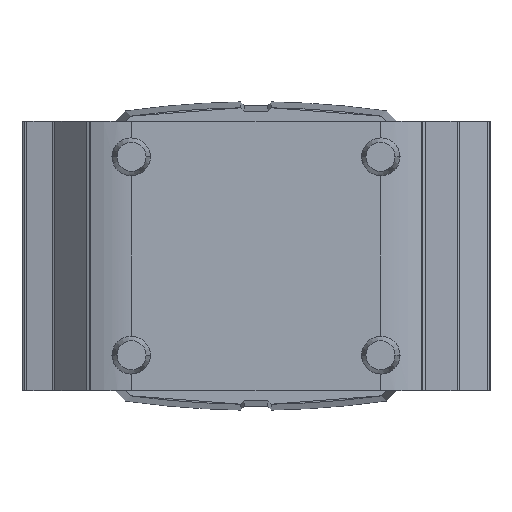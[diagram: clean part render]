
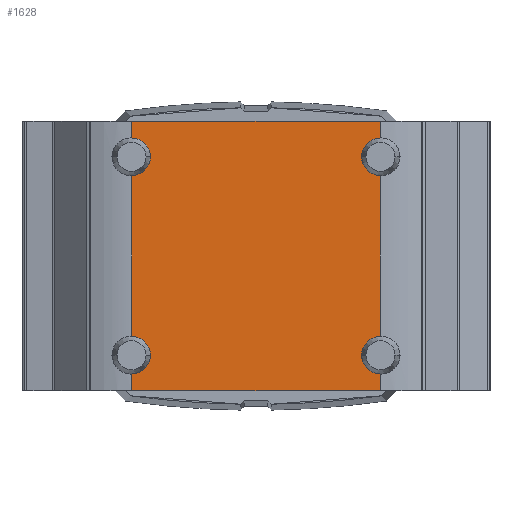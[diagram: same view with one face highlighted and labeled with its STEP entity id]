
A CAD part, front view. The second image highlights one B-rep face of the part: STEP entity #1628.
In plain terms, the highlighted planar face has unit normal (0, -1, 0).
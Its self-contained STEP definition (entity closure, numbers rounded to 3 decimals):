
#65=DIRECTION('',(1.,0.,0.));
#66=VECTOR('',#65,175.623);
#67=CARTESIAN_POINT('',(-87.812,-48.5,-95.));
#68=LINE('',#67,#66);
#335=CARTESIAN_POINT('',(-87.811,-48.5,70.));
#336=DIRECTION('',(0.,-1.,0.));
#337=DIRECTION('',(1.,0.,0.));
#338=AXIS2_PLACEMENT_3D('',#335,#336,#337);
#340=DIRECTION('',(0.,0.,-1.));
#341=VECTOR('',#340,11.693);
#342=CARTESIAN_POINT('',(87.812,-48.5,95.));
#343=LINE('',#342,#341);
#344=CARTESIAN_POINT('',(87.811,-48.5,70.));
#345=DIRECTION('',(0.,-1.,0.));
#346=DIRECTION('',(0.,0.,1.));
#347=AXIS2_PLACEMENT_3D('',#344,#345,#346);
#349=CARTESIAN_POINT('',(87.811,-48.5,70.));
#350=DIRECTION('',(0.,-1.,0.));
#351=DIRECTION('',(-1.,0.,0.));
#352=AXIS2_PLACEMENT_3D('',#349,#350,#351);
#354=CARTESIAN_POINT('',(87.811,-48.5,-70.));
#355=DIRECTION('',(0.,-1.,0.));
#356=DIRECTION('',(0.,0.,1.));
#357=AXIS2_PLACEMENT_3D('',#354,#355,#356);
#359=CARTESIAN_POINT('',(87.811,-48.5,-70.));
#360=DIRECTION('',(0.,-1.,0.));
#361=DIRECTION('',(-1.,0.,0.));
#362=AXIS2_PLACEMENT_3D('',#359,#360,#361);
#364=DIRECTION('',(0.,0.,-1.));
#365=VECTOR('',#364,11.693);
#366=CARTESIAN_POINT('',(87.812,-48.5,-83.307));
#367=LINE('',#366,#365);
#368=CARTESIAN_POINT('',(-87.811,-48.5,
-70.));
#369=DIRECTION('',(0.,-1.,0.));
#370=DIRECTION('',(0.,0.,-1.));
#371=AXIS2_PLACEMENT_3D('',#368,#369,#370);
#373=CARTESIAN_POINT('',(-87.811,-48.5,
-70.));
#374=DIRECTION('',(0.,-1.,0.));
#375=DIRECTION('',(1.,0.,0.));
#376=AXIS2_PLACEMENT_3D('',#373,#374,#375);
#378=CARTESIAN_POINT('',(-87.811,-48.5,70.));
#379=DIRECTION('',(0.,-1.,0.));
#380=DIRECTION('',(0.,0.,-1.));
#381=AXIS2_PLACEMENT_3D('',#378,#379,#380);
#392=CARTESIAN_POINT('',(-87.812,-48.5,83.307));
#398=DIRECTION('',(0.,0.,-1.));
#399=VECTOR('',#398,113.385);
#400=CARTESIAN_POINT('',(-87.812,-48.5,56.693));
#401=LINE('',#400,#399);
#402=DIRECTION('',(0.,0.,-1.));
#403=VECTOR('',#402,11.693);
#404=CARTESIAN_POINT('',(-87.812,-48.5,
-83.307));
#405=LINE('',#404,#403);
#410=DIRECTION('',(0.,0.,-1.));
#411=VECTOR('',#410,11.693);
#412=CARTESIAN_POINT('',(-87.812,-48.5,95.));
#413=LINE('',#412,#411);
#414=CARTESIAN_POINT('',(-87.812,-48.5,56.693));
#454=CARTESIAN_POINT('',(-87.812,-48.5,
-83.307));
#724=DIRECTION('',(-1.,0.,0.));
#725=VECTOR('',#724,175.623);
#726=CARTESIAN_POINT('',(87.812,-48.5,95.));
#727=LINE('',#726,#725);
#973=DIRECTION('',(0.,0.,1.));
#974=VECTOR('',#973,113.385);
#975=CARTESIAN_POINT('',(87.812,-48.5,-56.693));
#976=LINE('',#975,#974);
#1137=CARTESIAN_POINT('',(-87.812,-48.5,-95.));
#1138=CARTESIAN_POINT('',(87.812,-48.5,-95.));
#1139=VERTEX_POINT('',#1137);
#1140=VERTEX_POINT('',#1138);
#1322=CARTESIAN_POINT('',(87.812,-48.5,95.));
#1323=VERTEX_POINT('',#1322);
#1324=CARTESIAN_POINT('',(-87.812,-48.5,95.));
#1325=VERTEX_POINT('',#1324);
#1391=VERTEX_POINT('',#392);
#1392=VERTEX_POINT('',#414);
#1393=CARTESIAN_POINT('',(-87.812,-48.5,
-56.693));
#1394=VERTEX_POINT('',#1393);
#1396=VERTEX_POINT('',#454);
#1397=CARTESIAN_POINT('',(-74.504,-48.5,70.));
#1398=VERTEX_POINT('',#1397);
#1403=CARTESIAN_POINT('',(87.812,-48.5,83.307));
#1404=VERTEX_POINT('',#1403);
#1405=CARTESIAN_POINT('',(74.504,-48.5,70.));
#1406=VERTEX_POINT('',#1405);
#1407=CARTESIAN_POINT('',(87.812,-48.5,56.693));
#1408=VERTEX_POINT('',#1407);
#1409=CARTESIAN_POINT('',(87.812,-48.5,
-56.693));
#1410=VERTEX_POINT('',#1409);
#1411=CARTESIAN_POINT('',(74.504,-48.5,
-70.));
#1412=VERTEX_POINT('',#1411);
#1413=CARTESIAN_POINT('',(87.812,-48.5,
-83.307));
#1414=VERTEX_POINT('',#1413);
#1415=CARTESIAN_POINT('',(-74.504,-48.5,
-70.));
#1416=VERTEX_POINT('',#1415);
#1590=CARTESIAN_POINT('',(-87.812,-48.5,-95.));
#1591=DIRECTION('',(0.,-1.,0.));
#1592=DIRECTION('',(1.,0.,0.));
#1593=AXIS2_PLACEMENT_3D('',#1590,#1591,#1592);
#1594=PLANE('',#1593);
#1596=ORIENTED_EDGE('',*,*,#1595,.T.);
#1598=ORIENTED_EDGE('',*,*,#1597,.F.);
#1600=ORIENTED_EDGE('',*,*,#1599,.F.);
#1602=ORIENTED_EDGE('',*,*,#1601,.T.);
#1604=ORIENTED_EDGE('',*,*,#1603,.T.);
#1606=ORIENTED_EDGE('',*,*,#1605,.T.);
#1608=ORIENTED_EDGE('',*,*,#1607,.F.);
#1610=ORIENTED_EDGE('',*,*,#1609,.T.);
#1612=ORIENTED_EDGE('',*,*,#1611,.T.);
#1614=ORIENTED_EDGE('',*,*,#1613,.T.);
#1615=ORIENTED_EDGE('',*,*,#1452,.F.);
#1617=ORIENTED_EDGE('',*,*,#1616,.F.);
#1619=ORIENTED_EDGE('',*,*,#1618,.T.);
#1621=ORIENTED_EDGE('',*,*,#1620,.T.);
#1623=ORIENTED_EDGE('',*,*,#1622,.F.);
#1625=ORIENTED_EDGE('',*,*,#1624,.T.);
#1626=EDGE_LOOP('',(#1596,#1598,#1600,#1602,#1604,#1606,#1608,#1610,#1612,#1614,
#1615,#1617,#1619,#1621,#1623,#1625));
#1627=FACE_OUTER_BOUND('',#1626,.F.);
#339=CIRCLE('',#338,13.307);
#348=CIRCLE('',#347,13.307);
#353=CIRCLE('',#352,13.307);
#358=CIRCLE('',#357,13.307);
#363=CIRCLE('',#362,13.307);
#372=CIRCLE('',#371,13.307);
#377=CIRCLE('',#376,13.307);
#382=CIRCLE('',#381,13.307);
#1452=EDGE_CURVE('',#1139,#1140,#68,.T.);
#1595=EDGE_CURVE('',#1398,#1391,#339,.T.);
#1597=EDGE_CURVE('',#1325,#1391,#413,.T.);
#1599=EDGE_CURVE('',#1323,#1325,#727,.T.);
#1601=EDGE_CURVE('',#1323,#1404,#343,.T.);
#1603=EDGE_CURVE('',#1404,#1406,#348,.T.);
#1605=EDGE_CURVE('',#1406,#1408,#353,.T.);
#1607=EDGE_CURVE('',#1410,#1408,#976,.T.);
#1609=EDGE_CURVE('',#1410,#1412,#358,.T.);
#1611=EDGE_CURVE('',#1412,#1414,#363,.T.);
#1613=EDGE_CURVE('',#1414,#1140,#367,.T.);
#1616=EDGE_CURVE('',#1396,#1139,#405,.T.);
#1618=EDGE_CURVE('',#1396,#1416,#372,.T.);
#1620=EDGE_CURVE('',#1416,#1394,#377,.T.);
#1622=EDGE_CURVE('',#1392,#1394,#401,.T.);
#1624=EDGE_CURVE('',#1392,#1398,#382,.T.);
#1628=ADVANCED_FACE('',(#1627),#1594,.T.);
